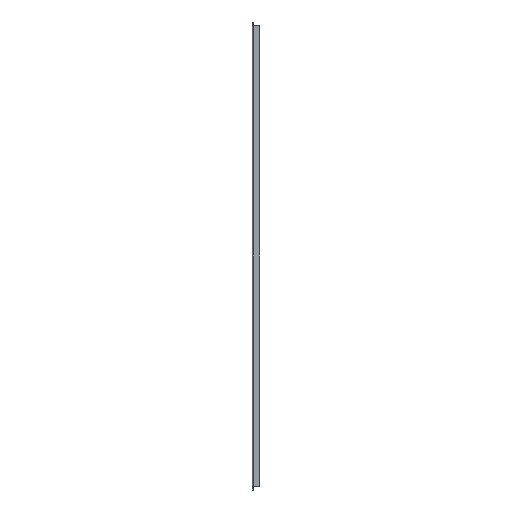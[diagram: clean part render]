
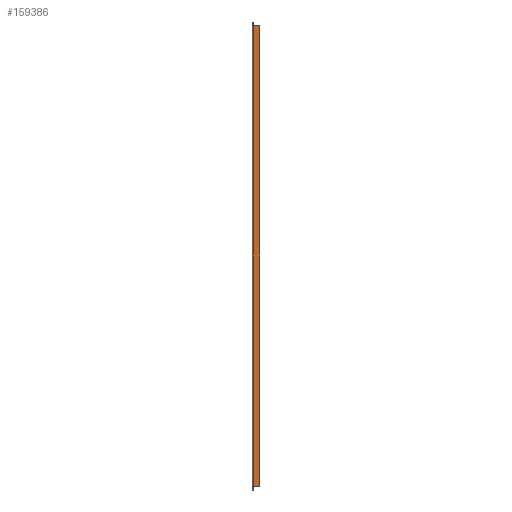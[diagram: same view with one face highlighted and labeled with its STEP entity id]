
A CAD part, left-side view. The second image highlights one B-rep face of the part: STEP entity #159386.
In plain terms, the highlighted planar face has unit normal (-1, 0, 0) as drawn and (1, 0, 0) by its records, which use the part's own axes.
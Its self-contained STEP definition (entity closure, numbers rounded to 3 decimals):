
#75756=CARTESIAN_POINT(' ',(134.5,-2.6,-442.5));
#75757=VERTEX_POINT(' ',#75756);
#75771=CARTESIAN_POINT(' ',(134.5,-15.,-442.5));
#75776=DIRECTION(' ',(0.,1.,0.));
#75781=VECTOR(' ',#75776,1.);
#75786=LINE('',#75771,#75781);
#75791=CARTESIAN_POINT(' ',(134.5,-15.,-442.5));
#75792=VERTEX_POINT(' ',#75791);
#75796=EDGE_CURVE(' ',#75792,#75757,#75786,.T.);
#76136=CARTESIAN_POINT(' ',(134.5,-15.,442.5));
#76137=VERTEX_POINT(' ',#76136);
#76151=CARTESIAN_POINT(' ',(134.5,-2.6,442.5));
#76156=DIRECTION(' ',(0.,-1.,0.));
#76161=VECTOR(' ',#76156,1.);
#76166=LINE('',#76151,#76161);
#76171=CARTESIAN_POINT(' ',(134.5,-2.6,442.5));
#76172=VERTEX_POINT(' ',#76171);
#76176=EDGE_CURVE(' ',#76172,#76137,#76166,.T.);
#159101=CARTESIAN_POINT(' ',(134.5,-2.6,442.5));
#159106=DIRECTION(' ',(0.,0.,-1.));
#159111=VECTOR(' ',#159106,1.);
#159116=LINE('',#159101,#159111);
#159121=EDGE_CURVE(' ',#76172,#75757,#159116,.T.);
#159306=DIRECTION(' ',(1.,0.,-0.));
#159311=CARTESIAN_POINT(' ',(134.5,-2.6,-442.5));
#159316=DIRECTION(' ',(0.,0.,1.));
#159321=AXIS2_PLACEMENT_3D(' ',#159311,#159306,#159316);
#159326=PLANE('NONE',#159321);
#159331=ORIENTED_EDGE(' ',*,*,#159121,.F.);
#159336=ORIENTED_EDGE(' ',*,*,#76176,.T.);
#159341=CARTESIAN_POINT(' ',(134.5,-15.,442.5));
#159346=DIRECTION(' ',(0.,0.,-1.));
#159351=VECTOR(' ',#159346,1.);
#159356=LINE('',#159341,#159351);
#159361=EDGE_CURVE(' ',#76137,#75792,#159356,.T.);
#159366=ORIENTED_EDGE(' ',*,*,#159361,.T.);
#159371=ORIENTED_EDGE(' ',*,*,#75796,.T.);
#159376=EDGE_LOOP(' ',(#159331,#159336,#159366,#159371));
#159381=FACE_OUTER_BOUND(' ',#159376,.T.);
#159386=ADVANCED_FACE('NONE',(#159381),#159326,.T.);
